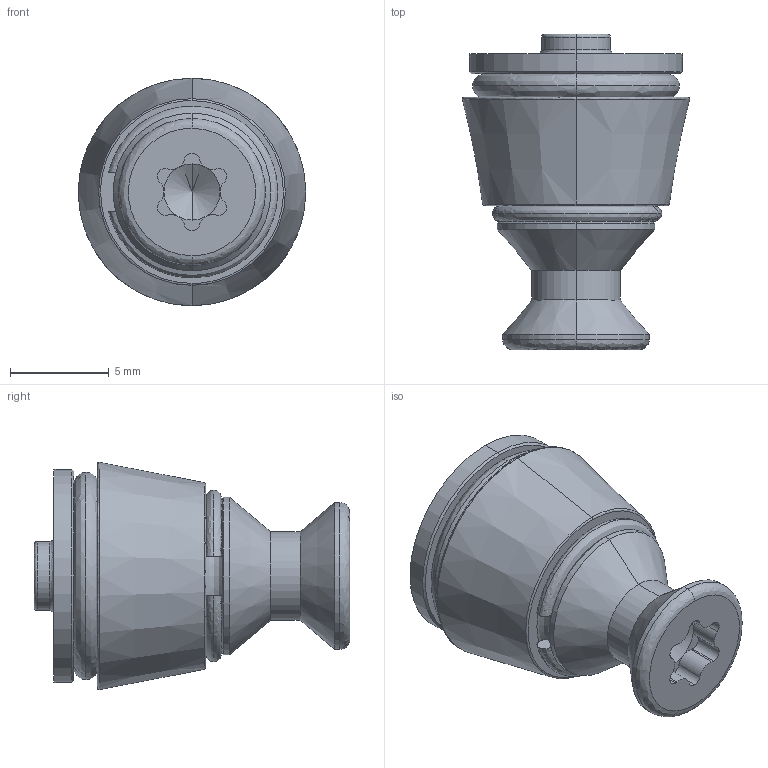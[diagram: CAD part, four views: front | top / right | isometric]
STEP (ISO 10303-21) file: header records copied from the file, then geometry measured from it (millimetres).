
FILE_DESCRIPTION (( 'STEP AP203' ), '1' );
FILE_NAME ('QS022-IC-M3.STEP', '2016-07-11T10:55:04', ( '' ), ( '' ), 'SwSTEP 2.0', 'SolidWorks 2016', '' );
FILE_SCHEMA (( 'CONFIG_CONTROL_DESIGN' ));
Length unit declared in the file: millimetre
Products named in the file (1): QS022-IC-M3
Bounding box: 11.53 x 16 x 11.53 mm (x, y, z)
Volume: 858.8 mm3; surface area: 1196.4 mm2
Topology: 4 solids, 4 shells, 83 faces, 183 edges, 106 vertices
Faces by surface type: cylinder 33, bspline 22, cone 14, plane 14
Entity records: 2642 total; most frequent: CARTESIAN_POINT 795, DIRECTION 403, ORIENTED_EDGE 358, EDGE_CURVE 179, AXIS2_PLACEMENT_3D 178, CIRCLE 116, VERTEX_POINT 106, EDGE_LOOP 89
